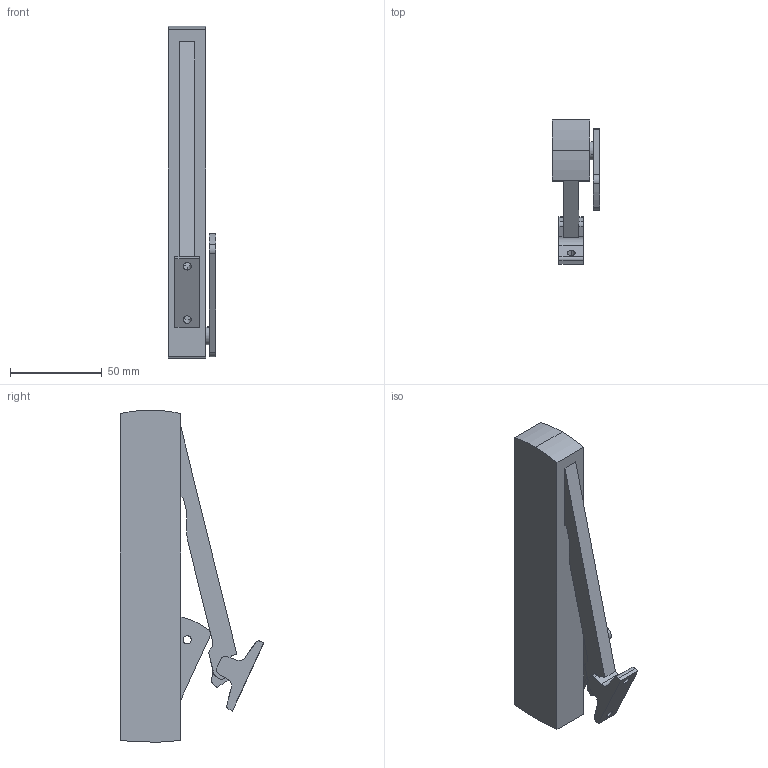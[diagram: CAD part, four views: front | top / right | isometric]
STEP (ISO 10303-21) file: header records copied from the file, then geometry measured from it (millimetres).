
FILE_DESCRIPTION (( 'STEP AP203' ), '1' );
FILE_NAME ('SE00AH01.STEP', '2020-02-12T01:05:15', ( 'Windows 蚚誧' ), ( '' ), 'SwSTEP 2.0', 'SolidWorks 2012', '' );
FILE_SCHEMA (( 'CONFIG_CONTROL_DESIGN' ));
Length unit declared in the file: millimetre
Products named in the file (1): SE00AH01
Bounding box: 25.75 x 78.41 x 181.17 mm (x, y, z)
Volume: 141593.3 mm3; surface area: 30132 mm2
Topology: 1 solids, 1 shells, 83 faces, 234 edges, 156 vertices
Faces by surface type: cylinder 42, plane 41
Entity records: 2803 total; most frequent: CARTESIAN_POINT 486, DIRECTION 480, ORIENTED_EDGE 468, EDGE_CURVE 234, AXIS2_PLACEMENT_3D 166, VERTEX_POINT 156, LINE 148, VECTOR 148
